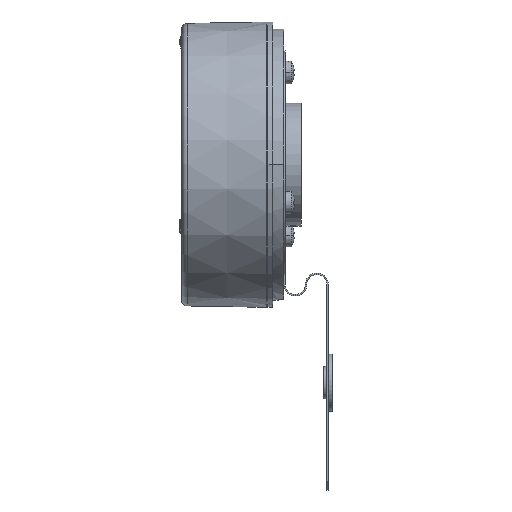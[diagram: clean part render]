
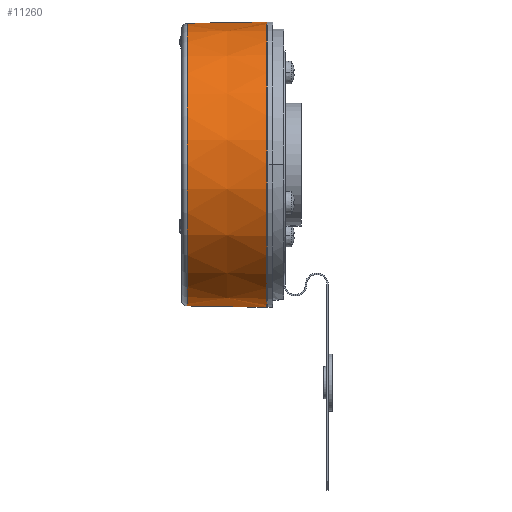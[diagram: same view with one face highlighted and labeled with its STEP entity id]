
A CAD part, top view. The second image highlights one B-rep face of the part: STEP entity #11260.
In plain terms, the highlighted conical face has half-angle 1 degrees and reference radius 50 mm.
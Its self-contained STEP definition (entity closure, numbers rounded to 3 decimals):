
#1977 = CIRCLE ( 'NONE', #25385, 49.511 ) ;
#2414 = ORIENTED_EDGE ( 'NONE', *, *, #32826, .T. ) ;
#3393 = LINE ( 'NONE', #7147, #22326 ) ;
#4772 = CONICAL_SURFACE ( 'NONE', #31946, 50., 0.017 ) ;
#5183 = DIRECTION ( 'NONE',  ( 1., 0., 0. ) ) ;
#5453 = ORIENTED_EDGE ( 'NONE', *, *, #17121, .T. ) ;
#7147 = CARTESIAN_POINT ( 'NONE',  ( 72.829, 178.569, 97.256 ) ) ;
#8058 = CARTESIAN_POINT ( 'NONE',  ( 44.794, 79.058, 97.256 ) ) ;
#9907 = LINE ( 'NONE', #36410, #18787 ) ;
#10379 = CARTESIAN_POINT ( 'NONE',  ( 44.794, 178.079, 97.256 ) ) ;
#11260 = ADVANCED_FACE ( 'NONE', ( #48482 ), #4772, .T. ) ;
#12899 = AXIS2_PLACEMENT_3D ( 'NONE', #38414, #15745, #42147 ) ;
#15745 = DIRECTION ( 'NONE',  ( -1., 0., 0. ) ) ;
#16516 = ORIENTED_EDGE ( 'NONE', *, *, #34342, .T. ) ;
#17121 = EDGE_CURVE ( 'NONE', #34756, #26089, #37202, .T. ) ;
#17950 = CARTESIAN_POINT ( 'NONE',  ( 72.829, 128.569, 97.256 ) ) ;
#18787 = VECTOR ( 'NONE', #43966, 1000. ) ;
#22326 = VECTOR ( 'NONE', #37408, 1000. ) ;
#24115 = CARTESIAN_POINT ( 'NONE',  ( 72.829, 78.569, 97.256 ) ) ;
#25385 = AXIS2_PLACEMENT_3D ( 'NONE', #27831, #5183, #31646 ) ;
#26089 = VERTEX_POINT ( 'NONE', #31166 ) ;
#27831 = CARTESIAN_POINT ( 'NONE',  ( 44.794, 128.569, 97.256 ) ) ;
#28922 = ORIENTED_EDGE ( 'NONE', *, *, #28968, .F. ) ;
#28968 = EDGE_CURVE ( 'NONE', #32448, #26089, #3393, .T. ) ;
#31166 = CARTESIAN_POINT ( 'NONE',  ( 72.829, 178.569, 97.256 ) ) ;
#31646 = DIRECTION ( 'NONE',  ( 0., 1., 0. ) ) ;
#31946 = AXIS2_PLACEMENT_3D ( 'NONE', #17950, #40450, #40757 ) ;
#32448 = VERTEX_POINT ( 'NONE', #10379 ) ;
#32826 = EDGE_CURVE ( 'NONE', #32448, #43031, #1977, .T. ) ;
#34342 = EDGE_CURVE ( 'NONE', #43031, #34756, #9907, .T. ) ;
#34756 = VERTEX_POINT ( 'NONE', #24115 ) ;
#36410 = CARTESIAN_POINT ( 'NONE',  ( 72.829, 78.569, 97.256 ) ) ;
#37202 = CIRCLE ( 'NONE', #12899, 50. ) ;
#37408 = DIRECTION ( 'NONE',  ( 1., 0.017, 0. ) ) ;
#38414 = CARTESIAN_POINT ( 'NONE',  ( 72.829, 128.569, 97.256 ) ) ;
#40450 = DIRECTION ( 'NONE',  ( 1., 0., 0. ) ) ;
#40757 = DIRECTION ( 'NONE',  ( 0., -1., 0. ) ) ;
#41947 = EDGE_LOOP ( 'NONE', ( #28922, #2414, #16516, #5453 ) ) ;
#42147 = DIRECTION ( 'NONE',  ( 0., 1., 0. ) ) ;
#43031 = VERTEX_POINT ( 'NONE', #8058 ) ;
#43966 = DIRECTION ( 'NONE',  ( 1., -0.017, 0. ) ) ;
#48482 = FACE_OUTER_BOUND ( 'NONE', #41947, .T. ) ;
